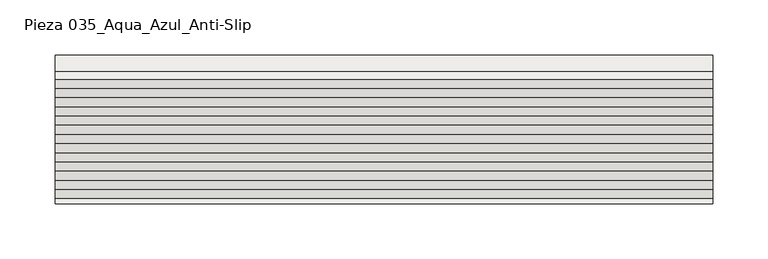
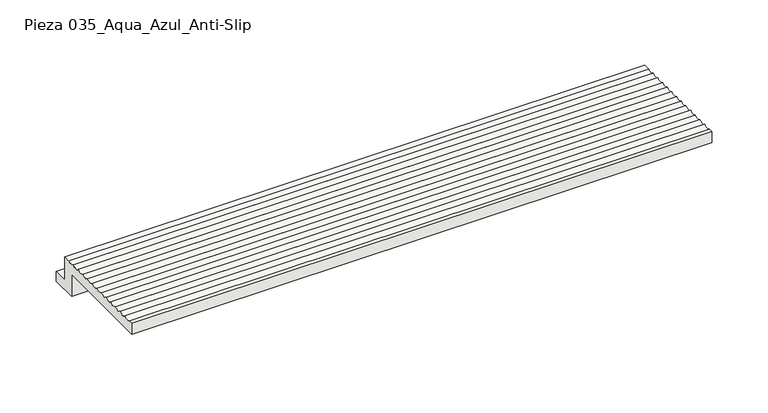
"""IFC4 building model written with IfcOpenShell, lengths in millimetres: slab geometry, ROSA GRES_035 : Pieza 035_Aqua_Azul_Anti-Slip."""

from ifc_helpers import new_model, si_unit, point, frame, frame_2d, origin, place, context, project, spatial, polyline, circle_curve, trimmed, segment, composite_curve, outline, extrude, source, transform, mapped, element, save


def pieza_035_aqua_azul_anti_slip_5bffa563(model_context):
    return source(origin(), model_context, "Body", "SweptSolid", [
        extrude(outline(composite_curve([segment(polyline([(-511.1821026, 191.3274907), (-511.1821026, 215.3274907), (-618.1821026, 215.3274907), (-618.1821026, 227.2926815), (-613.6860009, 227.2926815)]), True, "CONTINUOUS"), segment(trimmed(circle_curve(frame_2d((-609.8807503, 231.7505669)), 5.8611155), [point((-613.6860009, 227.2926815))], [point((-605.7277929, 227.6146729))], True, "CARTESIAN"), True, "CONTINUOUS"), segment(trimmed(circle_curve(frame_2d((-601.5775039, 231.7532445)), 5.8611155), [point((-605.7277929, 227.6146729))], [point((-597.4245465, 227.6173505))], True, "CARTESIAN"), True, "CONTINUOUS"), segment(trimmed(circle_curve(frame_2d((-593.2742574, 231.7559221)), 5.8611155), [point((-597.4245465, 227.6173505))], [point((-589.1213, 227.6200281))], True, "CARTESIAN"), True, "CONTINUOUS"), segment(trimmed(circle_curve(frame_2d((-584.9710109, 231.7585998)), 5.8611155), [point((-589.1213, 227.6200281))], [point((-580.8180535, 227.6227058))], True, "CARTESIAN"), True, "CONTINUOUS"), segment(trimmed(circle_curve(frame_2d((-576.6677645, 231.7612774)), 5.8611155), [point((-580.8180535, 227.6227058))], [point((-572.5148071, 227.6253834))], True, "CARTESIAN"), True, "CONTINUOUS"), segment(trimmed(circle_curve(frame_2d((-568.364518, 231.763955)), 5.8611155), [point((-572.5148071, 227.6253834))], [point((-564.2115606, 227.628061))], True, "CARTESIAN"), True, "CONTINUOUS"), segment(trimmed(circle_curve(frame_2d((-560.0612716, 231.7666327)), 5.8611155), [point((-564.2115606, 227.628061))], [point((-555.9083142, 227.6307387))], True, "CARTESIAN"), True, "CONTINUOUS"), segment(trimmed(circle_curve(frame_2d((-551.7580251, 231.7693103)), 5.8611155), [point((-555.9083142, 227.6307387))], [point((-547.6050677, 227.6334163))], True, "CARTESIAN"), True, "CONTINUOUS"), segment(trimmed(circle_curve(frame_2d((-543.4547786, 231.7719879)), 5.8611155), [point((-547.6050677, 227.6334163))], [point((-539.3018212, 227.6360939))], True, "CARTESIAN"), True, "CONTINUOUS"), segment(trimmed(circle_curve(frame_2d((-535.1515322, 231.7746656)), 5.8611155), [point((-539.3018212, 227.6360939))], [point((-530.9985748, 227.6387716))], True, "CARTESIAN"), True, "CONTINUOUS"), segment(trimmed(circle_curve(frame_2d((-526.8482857, 231.7773432)), 5.8611155), [point((-530.9985748, 227.6387716))], [point((-522.6953283, 227.6414492))], True, "CARTESIAN"), True, "CONTINUOUS"), segment(trimmed(circle_curve(frame_2d((-518.5450393, 231.7800208)), 5.8611155), [point((-522.6953283, 227.6414492))], [point((-514.3920818, 227.6441268))], True, "CARTESIAN"), True, "CONTINUOUS"), segment(trimmed(circle_curve(frame_2d((-510.2417928, 231.7826985)), 5.8611155), [point((-514.3920818, 227.6441268))], [point((-506.4334076, 227.3274907))], True, "CARTESIAN"), True, "CONTINUOUS"), segment(polyline([(-506.4334076, 227.3274907), (-499.1821026, 227.3274907), (-499.1821026, 202.3274907), (-484.1821026, 202.3274907), (-484.1821026, 191.3274907), (-511.1821026, 191.3274907)]), True, "CONTINUOUS")], self_intersect=False)), frame((0.0, 0.0, 0.0), z_axis=(1.0, 0.0, 0.0), x_axis=(0.0, 1.0, 0.0)), (0.0, 0.0, 1.0), 594.1555141),
    ])


if __name__ == "__main__":
    model = new_model("IFC4")
    model_context = context("Model", 3, world=origin())
    ifc_project = project(units=[si_unit("LENGTHUNIT", "METRE", prefix="MILLI")], contexts=[model_context])
    site = spatial("IfcSite", under=ifc_project)
    building = spatial("IfcBuilding", under=site)
    placement = place(None, origin())
    pieza_035_aqua_azul_anti_slip_shape = pieza_035_aqua_azul_anti_slip_5bffa563(model_context)
    element("IfcSlab", 1, ObjectType="ROSA GRES_035 : Pieza 035_Aqua_Azul_Anti-Slip", at=placement, inside=building, context=model_context, shape_type="MappedRepresentation", body=[
        mapped(pieza_035_aqua_azul_anti_slip_shape, transform((0.0, 0.0, 0.0), x_axis=(1.0, 0.0, 0.0), y_axis=(0.0, 1.0, 0.0), z_axis=(0.0, 0.0, 1.0))),
    ])
    save(model, "model.ifc")
